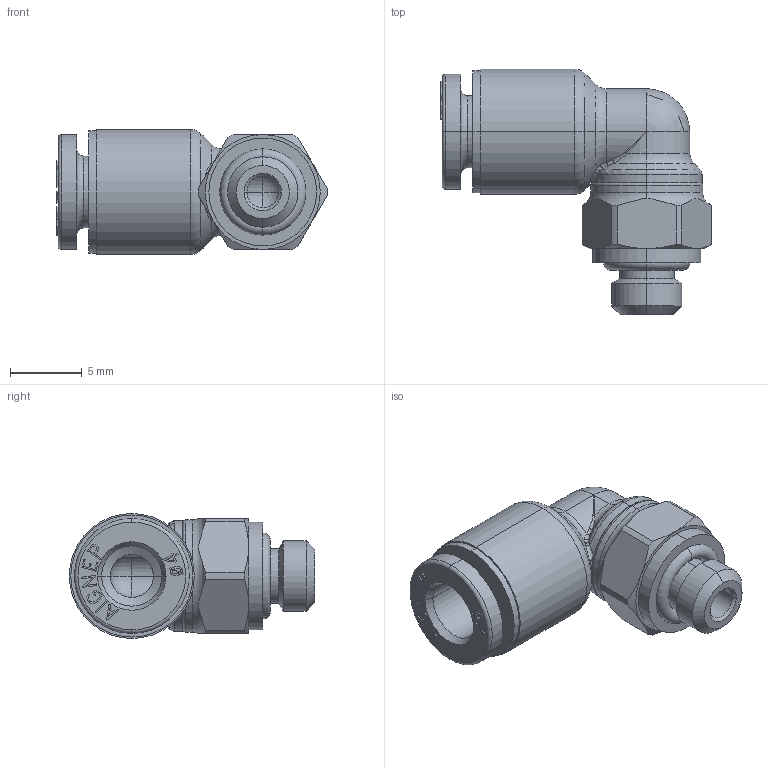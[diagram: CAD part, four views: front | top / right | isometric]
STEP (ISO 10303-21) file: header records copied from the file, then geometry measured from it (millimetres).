
FILE_DESCRIPTION (( 'STEP AP214' ), '1' );
FILE_NAME ('5611500005.STEP', '2018-03-15T13:54:40', ( '' ), ( '' ), 'SwSTEP 2.0', 'SolidWorks 2016', '' );
FILE_SCHEMA (( 'AUTOMOTIVE_DESIGN' ));
Length unit declared in the file: millimetre
Products named in the file (1): 5611500005
Bounding box: 18.85 x 17.08 x 8.7 mm (x, y, z)
Volume: 882.4 mm3; surface area: 1078.2 mm2
Topology: 1 solids, 1 shells, 312 faces, 808 edges, 513 vertices
Faces by surface type: plane 150, bspline 76, cylinder 40, cone 22, torus 21, sphere 3
Entity records: 13939 total; most frequent: CARTESIAN_POINT 3479, ORIENTED_EDGE 1604, DIRECTION 1236, EDGE_CURVE 802, VERTEX_POINT 513, LINE 480, VECTOR 480, AXIS2_PLACEMENT_3D 378
